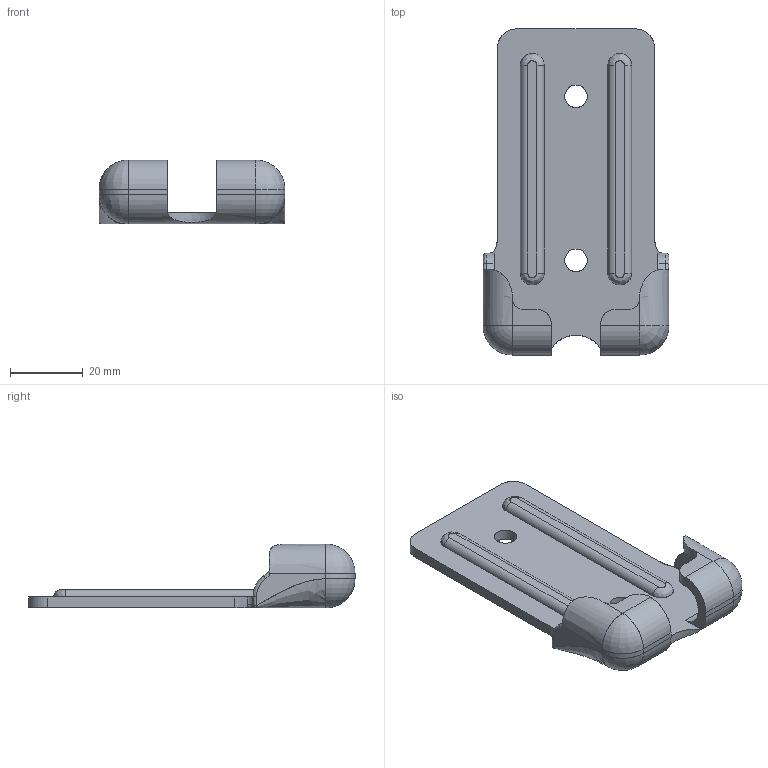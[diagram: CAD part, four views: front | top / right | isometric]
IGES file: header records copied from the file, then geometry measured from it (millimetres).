
Start section: SolidWorks IGES file using analytic representation for surfaces
Global section: file name: C:\Users\cbrechard\Desktop\AC 173.IGS; native system: SolidWorks 2017; preprocessor: SolidWorks 2017; author: cbrechard; date: 191011.164428; units: millimetre
Bounding box: 51 x 89.5 x 17.5 mm (x, y, z)
Surface area: 11562 mm2 (no closed solid volume)
Topology: 0 solids, 0 shells, 113 faces, 1329 edges, 1320 vertices
Faces by surface type: revolution 58, bspline 55
